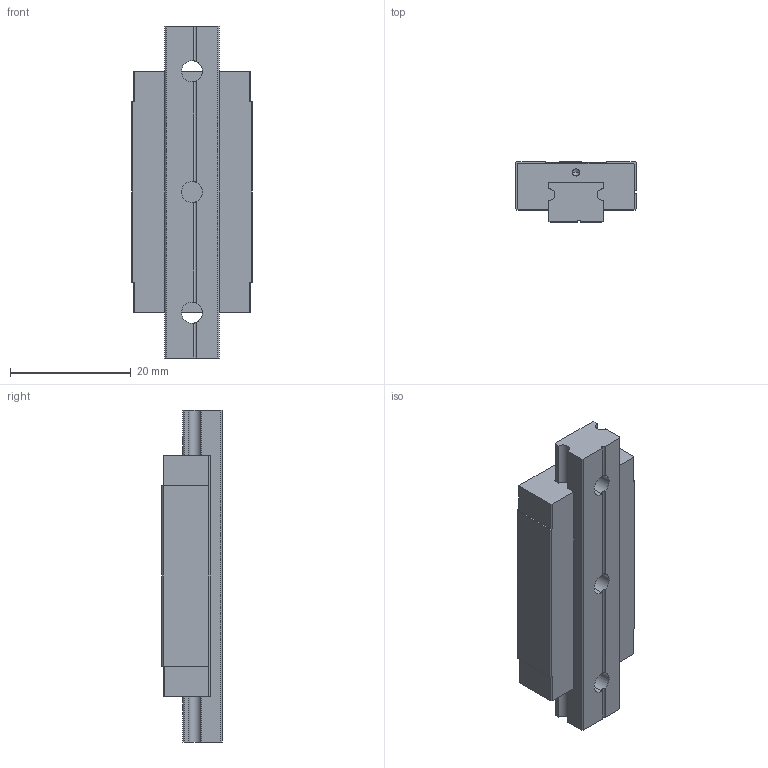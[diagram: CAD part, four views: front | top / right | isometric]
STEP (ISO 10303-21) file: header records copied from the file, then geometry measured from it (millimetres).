
FILE_DESCRIPTION (( 'STEP AP214' ), '1' );
FILE_NAME ('7.1055 Lineaarikelkka MTN9H.STEP', '2026-03-13T11:46:35', ( '' ), ( '' ), 'SwSTEP 2.0', 'SolidWorks 2025', '' );
FILE_SCHEMA (( 'AUTOMOTIVE_DESIGN' ));
Length unit declared in the file: millimetre
Products named in the file (1): 7.1055 Lineaarikelkka MTN9H
Bounding box: 20 x 10 x 55 mm (x, y, z)
Volume: 7312.3 mm3; surface area: 5231.5 mm2
Topology: 2 solids, 2 shells, 203 faces, 545 edges, 352 vertices
Faces by surface type: plane 133, cylinder 36, bspline 22, cone 12
Entity records: 9978 total; most frequent: CARTESIAN_POINT 2777, ORIENTED_EDGE 1066, DIRECTION 919, EDGE_CURVE 533, LINE 411, VECTOR 411, VERTEX_POINT 352, AXIS2_PLACEMENT_3D 254
